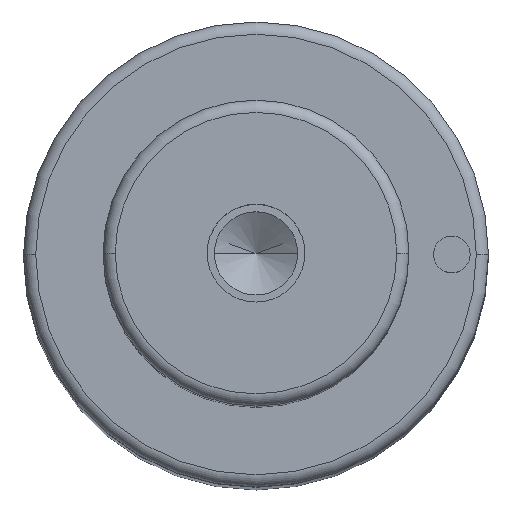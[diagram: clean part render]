
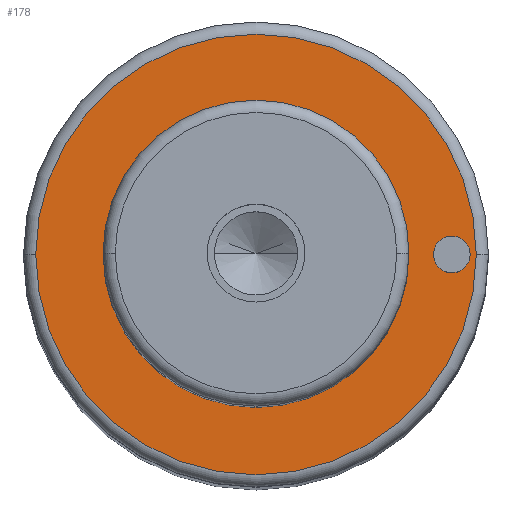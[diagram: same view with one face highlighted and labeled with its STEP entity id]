
A CAD part, top view. The second image highlights one B-rep face of the part: STEP entity #178.
In plain terms, the highlighted planar face has unit normal (0, 0, 1).
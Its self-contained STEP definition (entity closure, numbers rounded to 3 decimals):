
#105=PLANE('',#866);
#115=FACE_BOUND('',#283,.T.);
#116=FACE_BOUND('',#284,.T.);
#117=FACE_BOUND('',#285,.T.);
#178=ADVANCED_FACE('',(#115,#116,#117),#105,.T.);
#283=EDGE_LOOP('',(#473,#474));
#284=EDGE_LOOP('',(#475,#476));
#285=EDGE_LOOP('',(#477,#478));
#333=CIRCLE('',#834,12.5);
#334=CIRCLE('',#836,12.5);
#338=CIRCLE('',#841,18.);
#339=CIRCLE('',#843,18.);
#351=CIRCLE('',#864,1.5);
#352=CIRCLE('',#865,1.5);
#473=ORIENTED_EDGE('',*,*,#666,.F.);
#474=ORIENTED_EDGE('',*,*,#667,.F.);
#475=ORIENTED_EDGE('',*,*,#685,.F.);
#476=ORIENTED_EDGE('',*,*,#686,.F.);
#477=ORIENTED_EDGE('',*,*,#662,.T.);
#478=ORIENTED_EDGE('',*,*,#660,.T.);
#590=VERTEX_POINT('',#1233);
#591=VERTEX_POINT('',#1235);
#592=VERTEX_POINT('',#1241);
#595=VERTEX_POINT('',#1246);
#604=VERTEX_POINT('',#1285);
#605=VERTEX_POINT('',#1286);
#660=EDGE_CURVE('',#591,#590,#333,.T.);
#662=EDGE_CURVE('',#590,#591,#334,.T.);
#666=EDGE_CURVE('',#595,#592,#338,.T.);
#667=EDGE_CURVE('',#592,#595,#339,.T.);
#685=EDGE_CURVE('',#604,#605,#351,.T.);
#686=EDGE_CURVE('',#605,#604,#352,.T.);
#834=AXIS2_PLACEMENT_3D('',#1234,#985,#986);
#836=AXIS2_PLACEMENT_3D('',#1238,#990,#991);
#841=AXIS2_PLACEMENT_3D('',#1247,#1000,#1001);
#843=AXIS2_PLACEMENT_3D('',#1249,#1004,#1005);
#864=AXIS2_PLACEMENT_3D('',#1284,#1052,#1053);
#865=AXIS2_PLACEMENT_3D('',#1287,#1054,#1055);
#866=AXIS2_PLACEMENT_3D('',#1288,#1056,#1057);
#985=DIRECTION('',(0.,0.,-1.));
#986=DIRECTION('',(0.,1.,0.));
#990=DIRECTION('',(0.,0.,-1.));
#991=DIRECTION('',(0.,-1.,0.));
#1000=DIRECTION('',(0.,0.,-1.));
#1001=DIRECTION('',(0.,1.,0.));
#1004=DIRECTION('',(0.,0.,-1.));
#1005=DIRECTION('',(0.,-1.,0.));
#1052=DIRECTION('',(0.,0.,1.));
#1053=DIRECTION('',(0.,1.,0.));
#1054=DIRECTION('',(0.,0.,1.));
#1055=DIRECTION('',(0.,-1.,0.));
#1056=DIRECTION('',(0.,0.,1.));
#1057=DIRECTION('',(0.,-1.,0.));
#1233=CARTESIAN_POINT('',(-12.5,0.,140.));
#1234=CARTESIAN_POINT('',(0.,0.,140.));
#1235=CARTESIAN_POINT('',(12.5,0.,140.));
#1238=CARTESIAN_POINT('',(0.,0.,140.));
#1241=CARTESIAN_POINT('',(-18.,0.,140.));
#1246=CARTESIAN_POINT('',(18.,0.,140.));
#1247=CARTESIAN_POINT('',(0.,0.,140.));
#1249=CARTESIAN_POINT('',(0.,0.,140.));
#1284=CARTESIAN_POINT('',(16.,0.,140.));
#1285=CARTESIAN_POINT('',(14.5,0.,140.));
#1286=CARTESIAN_POINT('',(17.5,0.,140.));
#1287=CARTESIAN_POINT('',(16.,0.,140.));
#1288=CARTESIAN_POINT('',(0.,0.,140.));
